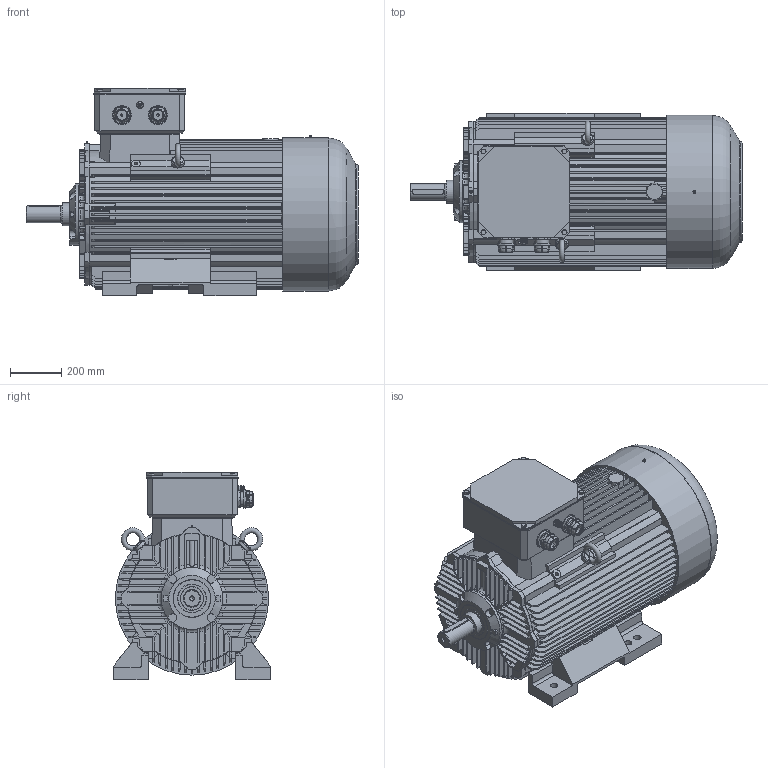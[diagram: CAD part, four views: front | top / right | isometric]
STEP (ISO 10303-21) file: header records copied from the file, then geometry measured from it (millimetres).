
FILE_DESCRIPTION(/* description */ ('Unknown','CAx-IF Rec.Pracs.---Representation and Presentation of Product Manufacturing Information (PMI)---4.0---2014-10-13','CAx-IF Rec.Pracs.---3D Tessellated Geometry---0.4---2014-09-14','2;1'),/* implementation_level */ '2;1');
FILE_NAME(/* name */ '4SIE315(M2A,M2B)',/* time_stamp */ '2023-03-22T13:15:43+01:00',/* author */ ('Unknown'),/* organization */ ('Unknown'),/* preprocessor_version */ 'ST-DEVELOPER v16.7',/* originating_system */ 'DEX',/* authorisation */ $);
FILE_SCHEMA (('AP242_MANAGED_MODEL_BASED_3D_ENGINEERING_MIM_LF { 1 0 10303 442 20130219 1 4 }'));
Length unit declared in the file: millimetre
Products named in the file (1): 4SIE315(M2A,M2B)
Bounding box: 1290 x 610.02 x 804.5 mm (x, y, z)
Volume: 283955444.6 mm3; surface area: 6857386.3 mm2
Topology: 6 solids, 20 shells, 1966 faces, 5608 edges, 3676 vertices
Faces by surface type: plane 1080, cylinder 577, torus 132, cone 105, sphere 56, bspline 16
Full cylindrical faces by diameter (mm): 1.6 x2, 5 x3, 6.595 x1, 8.698 x1, 9 x1, 9.306 x1, 10.106 x4, 11 x1, 13 x1, 13.835 x1, 16.63 x4, 17 x1, 17.294 x1, 18 x1, 20 x2, 24 x4, 27 x1, 28 x6, 38.657 x2, 42.657 x2, 44 x2, 47 x2, 50 x2, 54 x2, 64.999 x1, 75 x2, 89.5 x1, 90 x1, 99.4 x1, 100 x1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
Entity records: 77097 total; most frequent: CARTESIAN_POINT 14895, ORIENTED_EDGE 10560, DIRECTION 10103, EDGE_CURVE 5280, AXIS2_PLACEMENT_3D 3605, VERTEX_POINT 3526, LINE 2893, VECTOR 2893
